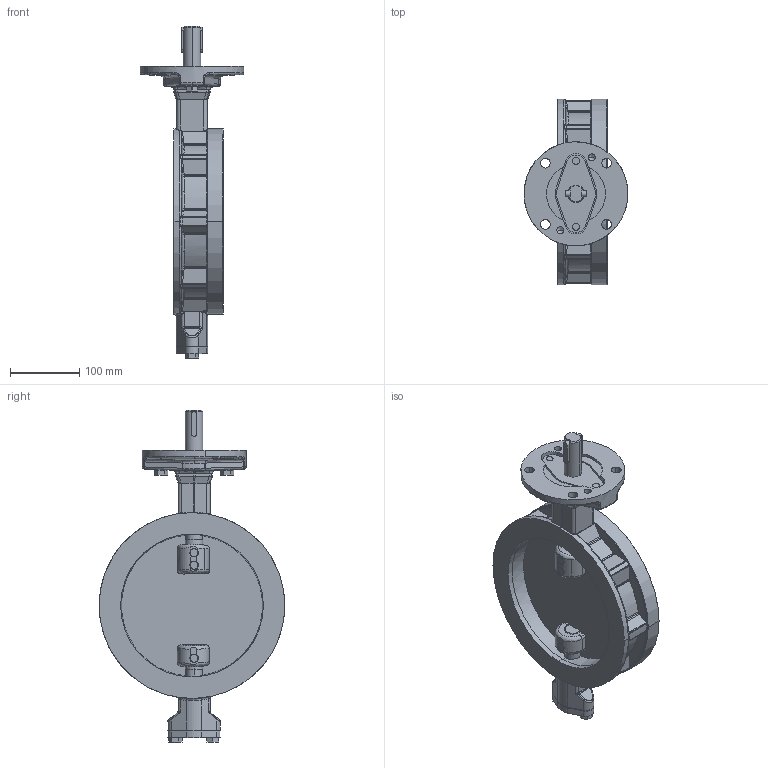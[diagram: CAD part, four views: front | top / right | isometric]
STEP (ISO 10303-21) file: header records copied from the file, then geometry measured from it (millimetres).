
FILE_DESCRIPTION(('STEP AP214'),'1');
FILE_NAME('C:/vxg4/user/temp2.stp','2010-06-23T04:56:45',(' '),(' '),'Spatial InterOp 3D',' ',' ');
FILE_SCHEMA(('automotive_design'));
Length unit declared in the file: millimetre
Products named in the file (1): 1
Bounding box: 150 x 268 x 478.9 mm (x, y, z)
Volume: 3007918 mm3; surface area: 335073.6 mm2
Topology: 1 solids, 9 shells, 844 faces, 2190 edges, 1370 vertices
Faces by surface type: cylinder 344, plane 202, bspline 151, torus 72, cone 67, sphere 8
Entity records: 55277 total; most frequent: CARTESIAN_POINT 25570, ORIENTED_EDGE 4328, DIRECTION 4041, EDGE_CURVE 2164, AXIS2_PLACEMENT_3D 1641, STYLED_ITEM 1437, PRESENTATION_STYLE_ASSIGNMENT 1437, COLOUR_RGB 1437
